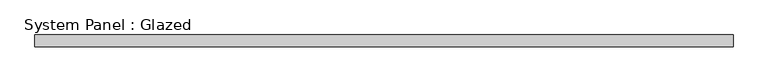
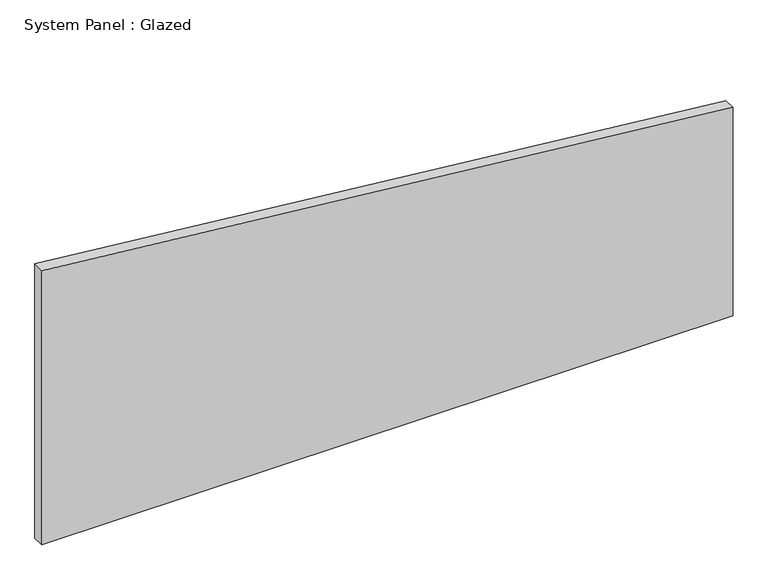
"""IFC4 building model written with IfcOpenShell, lengths in millimetres: plate geometry, System Panel : Glazed."""

from ifc_helpers import new_model, si_unit, frame, origin, place, context, project, spatial, polyline, outline, extrude, source, transform, mapped, element, save


def system_panel_glazed_1eeb4bfb(model_context):
    return source(origin(), model_context, "Body", "SweptSolid", [
        extrude(outline(polyline([(0.0, -735.8695652), (0.0, 735.8695652), (469.4081391, 735.8695652), (617.3911178, -735.8695652), (0.0, -735.8695652)])), frame((0.0, 24.5, 0.0), z_axis=(0.0, 1.0, 0.0), x_axis=(0.0, 0.0, 1.0)), (0.0, 0.0, 1.0), 25.0),
    ])


if __name__ == "__main__":
    model = new_model("IFC4")
    model_context = context("Model", 3, world=origin())
    ifc_project = project(units=[si_unit("LENGTHUNIT", "METRE", prefix="MILLI")], contexts=[model_context])
    site = spatial("IfcSite", under=ifc_project)
    building = spatial("IfcBuilding", under=site)
    placement = place(None, origin())
    system_panel_glazed_shape = system_panel_glazed_1eeb4bfb(model_context)
    element("IfcPlate", 1, ObjectType="System Panel : Glazed", at=placement, inside=building, context=model_context, shape_type="MappedRepresentation", body=[
        mapped(system_panel_glazed_shape, transform((0.0, 0.0, 0.0), x_axis=(1.0, 0.0, 0.0), y_axis=(0.0, 1.0, 0.0), z_axis=(0.0, 0.0, 1.0))),
    ])
    save(model, "model.ifc")
